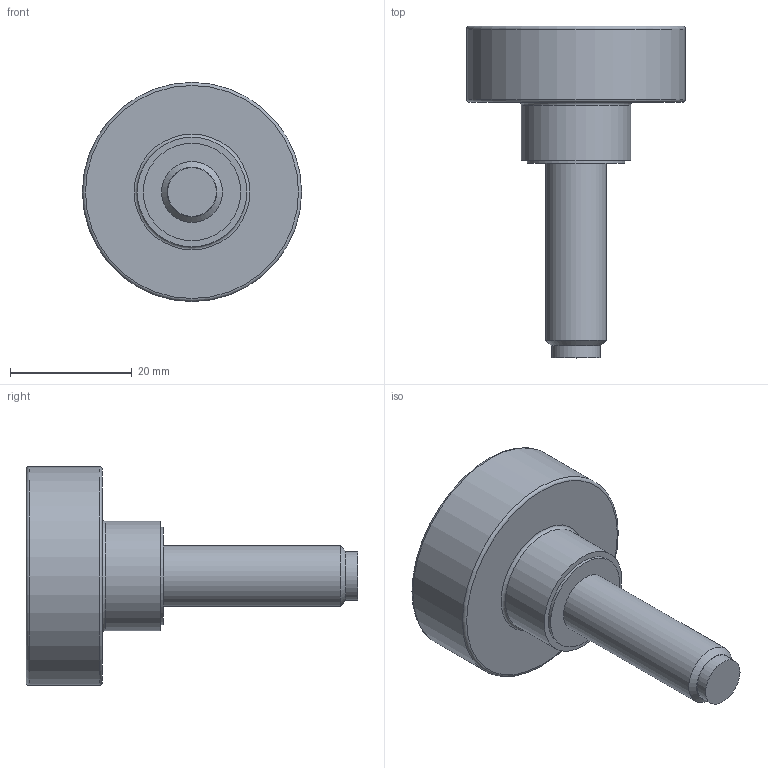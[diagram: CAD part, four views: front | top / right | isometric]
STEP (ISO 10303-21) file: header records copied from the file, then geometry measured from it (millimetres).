
FILE_DESCRIPTION( ( 'STEP AP203' ), '1' );
FILE_NAME( 'C:/Temp/Ganter_Step_05_03_2020/data/2_2/gn_421_10/Hollow knurled knob, with tip GN 421.10-M10-30-MS.stp', '2020-03-05T12:25:37', ( 'License CC BY-ND 4.0' ), ( 'CADENAS' ), ' ', 'PARTsolutions', ' ' );
FILE_SCHEMA( ( 'CONFIG_CONTROL_DESIGN' ) );
Length unit declared in the file: millimetre
Products named in the file (1): _Hollow knurled knob, with tip GN 421.10-M10-30-MS
Bounding box: 36 x 54.5 x 36 mm (x, y, z)
Volume: 11707.9 mm3; surface area: 5828.9 mm2
Topology: 1 solids, 1 shells, 19 faces, 30 edges, 19 vertices
Faces by surface type: plane 8, cylinder 7, torus 3, cone 1
Full cylindrical faces by diameter (mm): 8 x1, 10 x1, 14 x1, 16 x1, 18 x1, 31 x1, 36 x1
Entity records: 418 total; most frequent: DIRECTION 76, CARTESIAN_POINT 56, AXIS2_PLACEMENT_3D 38, EDGE_LOOP 36, ORIENTED_EDGE 36, FACE_OUTER_BOUND 29, ADVANCED_FACE 19, EDGE_CURVE 18
